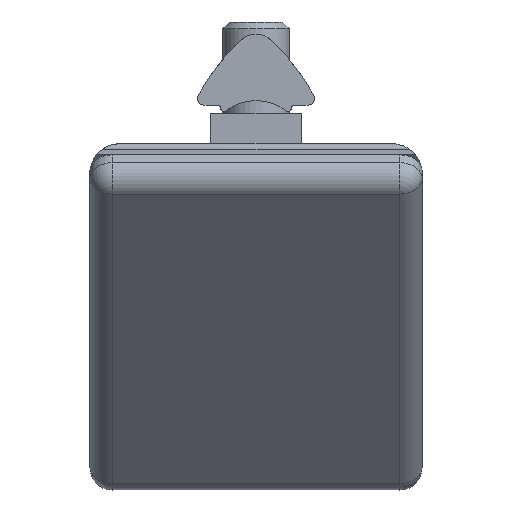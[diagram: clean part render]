
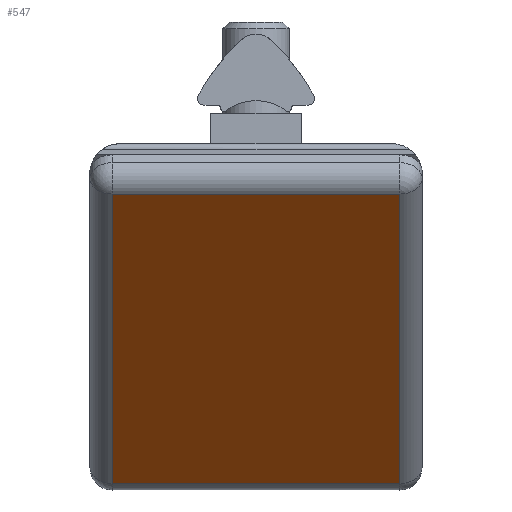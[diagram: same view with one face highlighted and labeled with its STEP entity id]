
A CAD part, front view. The second image highlights one B-rep face of the part: STEP entity #547.
In plain terms, the highlighted planar face has unit normal (0, -0.707, -0.707).
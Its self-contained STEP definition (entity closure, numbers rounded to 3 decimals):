
#547=ADVANCED_FACE('',(#1061),#1062,.T.);
#1061=FACE_OUTER_BOUND('',#1609,.T.);
#1062=PLANE('',#1610);
#1609=EDGE_LOOP('',(#2733,#2734,#2735,#2736));
#1610=AXIS2_PLACEMENT_3D('',#2737,#2738,#2739);
#2733=ORIENTED_EDGE('',*,*,#3729,.T.);
#2734=ORIENTED_EDGE('',*,*,#3710,.T.);
#2735=ORIENTED_EDGE('',*,*,#3723,.T.);
#2736=ORIENTED_EDGE('',*,*,#3718,.T.);
#2737=CARTESIAN_POINT('',(0.0,-17.621,-17.621));
#2738=DIRECTION('',(0.0,-0.707,-0.707));
#2739=DIRECTION('',(0.0,-0.707,0.707));
#3710=EDGE_CURVE('',#4453,#4462,#4464,.T.);
#3718=EDGE_CURVE('',#4466,#4475,#4477,.T.);
#3723=EDGE_CURVE('',#4462,#4466,#4483,.T.);
#3729=EDGE_CURVE('',#4475,#4453,#4490,.T.);
#4453=VERTEX_POINT('',#5818);
#4462=VERTEX_POINT('',#5828);
#4464=LINE('',#5830,#5831);
#4466=VERTEX_POINT('',#5833);
#4475=VERTEX_POINT('',#5843);
#4477=LINE('',#5845,#5846);
#4483=LINE('',#5852,#5853);
#4490=LINE('',#5861,#5862);
#5818=CARTESIAN_POINT('',(13.0,-4.54,-30.703));
#5828=CARTESIAN_POINT('',(13.0,-30.703,-4.54));
#5830=CARTESIAN_POINT('',(13.0,-9.666,-25.576));
#5831=VECTOR('',#6917,1.0);
#5833=CARTESIAN_POINT('',(-13.0,-30.703,-4.54));
#5843=CARTESIAN_POINT('',(-13.0,-4.54,-30.703));
#5845=CARTESIAN_POINT('',(-13.0,-25.576,-9.666));
#5846=VECTOR('',#6931,1.0);
#5852=CARTESIAN_POINT('',(-8.5,-30.703,-4.54));
#5853=VECTOR('',#6938,1.0);
#5861=CARTESIAN_POINT('',(8.5,-4.54,-30.703));
#5862=VECTOR('',#6946,1.0);
#6917=DIRECTION('',(0.0,-0.707,0.707));
#6931=DIRECTION('',(-0.0,0.707,-0.707));
#6938=DIRECTION('',(-1.0,0.0,-0.0));
#6946=DIRECTION('',(1.0,0.0,0.0));
